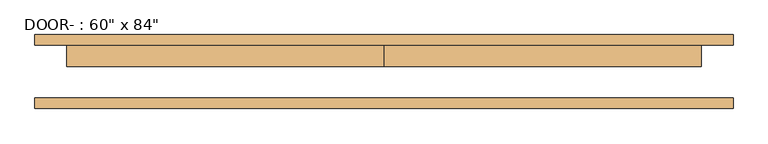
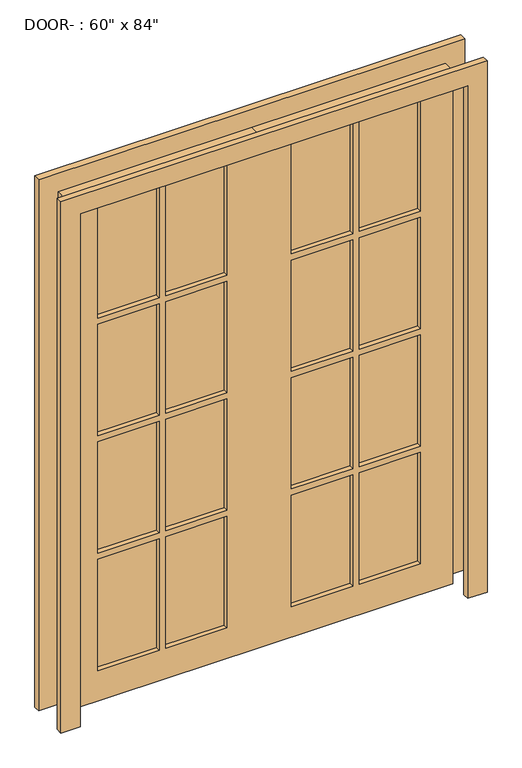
"""IFC4 building model written with IfcOpenShell, lengths in millimetres: door geometry."""

from ifc_helpers import new_model, si_unit, frame, origin, place, context, project, spatial, polyline, outline, extrude, source, transform, mapped, element, save


def door_341c2aa2(model_context):
    return source(origin(), model_context, "Body", "SweptSolid", [
        extrude(outline(polyline([(393.7, 44.45), (635.0, 44.45), (635.0, 31.75), (393.7, 31.75), (393.7, 44.45)])), frame((0.0, 0.0, 1593.85), z_axis=(0.0, 0.0, 1.0), x_axis=(1.0, 0.0, 0.0)), (0.0, 0.0, 1.0), 463.55),
        extrude(outline(polyline([(127.0, 44.45), (368.3, 44.45), (368.3, 31.75), (127.0, 31.75), (127.0, 44.45)])), frame((0.0, 0.0, 1593.85), z_axis=(0.0, 0.0, 1.0), x_axis=(1.0, 0.0, 0.0)), (0.0, 0.0, 1.0), 463.55),
        extrude(outline(polyline([(-368.3, 44.45), (-127.0, 44.45), (-127.0, 31.75), (-368.3, 31.75), (-368.3, 44.45)])), frame((0.0, 0.0, 1593.85), z_axis=(0.0, 0.0, 1.0), x_axis=(1.0, 0.0, 0.0)), (0.0, 0.0, 1.0), 463.55),
        extrude(outline(polyline([(-635.0, 44.45), (-393.7, 44.45), (-393.7, 31.75), (-635.0, 31.75), (-635.0, 44.45)])), frame((0.0, 0.0, 1593.85), z_axis=(0.0, 0.0, 1.0), x_axis=(1.0, 0.0, 0.0)), (0.0, 0.0, 1.0), 463.55),
        extrude(outline(polyline([(-635.0, 44.45), (-393.7, 44.45), (-393.7, 31.75), (-635.0, 31.75), (-635.0, 44.45)])), frame((0.0, 0.0, 1104.9), z_axis=(0.0, 0.0, 1.0), x_axis=(1.0, 0.0, 0.0)), (0.0, 0.0, 1.0), 463.55),
        extrude(outline(polyline([(-368.3, 44.45), (-127.0, 44.45), (-127.0, 31.75), (-368.3, 31.75), (-368.3, 44.45)])), frame((0.0, 0.0, 1104.9), z_axis=(0.0, 0.0, 1.0), x_axis=(1.0, 0.0, 0.0)), (0.0, 0.0, 1.0), 463.55),
        extrude(outline(polyline([(127.0, 44.45), (368.3, 44.45), (368.3, 31.75), (127.0, 31.75), (127.0, 44.45)])), frame((0.0, 0.0, 1104.9), z_axis=(0.0, 0.0, 1.0), x_axis=(1.0, 0.0, 0.0)), (0.0, 0.0, 1.0), 463.55),
        extrude(outline(polyline([(393.7, 44.45), (635.0, 44.45), (635.0, 31.75), (393.7, 31.75), (393.7, 44.45)])), frame((0.0, 0.0, 1104.9), z_axis=(0.0, 0.0, 1.0), x_axis=(1.0, 0.0, 0.0)), (0.0, 0.0, 1.0), 463.55),
        extrude(outline(polyline([(393.7, 44.45), (635.0, 44.45), (635.0, 31.75), (393.7, 31.75), (393.7, 44.45)])), frame((0.0, 0.0, 615.95), z_axis=(0.0, 0.0, 1.0), x_axis=(1.0, 0.0, 0.0)), (0.0, 0.0, 1.0), 463.55),
        extrude(outline(polyline([(127.0, 44.45), (368.3, 44.45), (368.3, 31.75), (127.0, 31.75), (127.0, 44.45)])), frame((0.0, 0.0, 615.95), z_axis=(0.0, 0.0, 1.0), x_axis=(1.0, 0.0, 0.0)), (0.0, 0.0, 1.0), 463.55),
        extrude(outline(polyline([(-368.3, 44.45), (-127.0, 44.45), (-127.0, 31.75), (-368.3, 31.75), (-368.3, 44.45)])), frame((0.0, 0.0, 615.95), z_axis=(0.0, 0.0, 1.0), x_axis=(1.0, 0.0, 0.0)), (0.0, 0.0, 1.0), 463.55),
        extrude(outline(polyline([(-635.0, 44.45), (-393.7, 44.45), (-393.7, 31.75), (-635.0, 31.75), (-635.0, 44.45)])), frame((0.0, 0.0, 615.95), z_axis=(0.0, 0.0, 1.0), x_axis=(1.0, 0.0, 0.0)), (0.0, 0.0, 1.0), 463.55),
        extrude(outline(polyline([(393.7, 44.45), (635.0, 44.45), (635.0, 31.75), (393.7, 31.75), (393.7, 44.45)])), frame((0.0, 0.0, 127.0), z_axis=(0.0, 0.0, 1.0), x_axis=(1.0, 0.0, 0.0)), (0.0, 0.0, 1.0), 463.55),
        extrude(outline(polyline([(127.0, 44.45), (368.3, 44.45), (368.3, 31.75), (127.0, 31.75), (127.0, 44.45)])), frame((0.0, 0.0, 127.0), z_axis=(0.0, 0.0, 1.0), x_axis=(1.0, 0.0, 0.0)), (0.0, 0.0, 1.0), 463.55),
        extrude(outline(polyline([(-368.3, 44.45), (-127.0, 44.45), (-127.0, 31.75), (-368.3, 31.75), (-368.3, 44.45)])), frame((0.0, 0.0, 127.0), z_axis=(0.0, 0.0, 1.0), x_axis=(1.0, 0.0, 0.0)), (0.0, 0.0, 1.0), 463.55),
        extrude(outline(polyline([(-635.0, 44.45), (-393.7, 44.45), (-393.7, 31.75), (-635.0, 31.75), (-635.0, 44.45)])), frame((0.0, 0.0, 127.0), z_axis=(0.0, 0.0, 1.0), x_axis=(1.0, 0.0, 0.0)), (0.0, 0.0, 1.0), 463.55),
        extrude(outline(polyline([(2133.6, 0.0), (2133.6, -762.0), (0.0, -762.0), (0.0, 0.0), (0.0, 762.0), (2133.6, 762.0), (2133.6, 0.0)]), holes=[polyline([(2057.4, 393.7), (2057.4, 635.0), (1593.85, 635.0), (1593.85, 393.7), (2057.4, 393.7)]), polyline([(2057.4, 127.0), (2057.4, 368.3), (1593.85, 368.3), (1593.85, 127.0), (2057.4, 127.0)]), polyline([(1568.45, 393.7), (1568.45, 635.0), (1104.9, 635.0), (1104.9, 393.7), (1568.45, 393.7)]), polyline([(1568.45, 127.0), (1568.45, 368.3), (1104.9, 368.3), (1104.9, 127.0), (1568.45, 127.0)]), polyline([(1079.5, 393.7), (1079.5, 635.0), (615.95, 635.0), (615.95, 393.7), (1079.5, 393.7)]), polyline([(1079.5, 127.0), (1079.5, 368.3), (615.95, 368.3), (615.95, 127.0), (1079.5, 127.0)]), polyline([(590.55, 393.7), (590.55, 635.0), (127.0, 635.0), (127.0, 393.7), (590.55, 393.7)]), polyline([(590.55, 127.0), (590.55, 368.3), (127.0, 368.3), (127.0, 127.0), (590.55, 127.0)]), polyline([(2057.4, -368.3), (2057.4, -127.0), (1593.85, -127.0), (1593.85, -368.3), (2057.4, -368.3)]), polyline([(1568.45, -368.3), (1568.45, -127.0), (1104.9, -127.0), (1104.9, -368.3), (1568.45, -368.3)]), polyline([(1568.45, -393.7), (1104.9, -393.7), (1104.9, -635.0), (1568.45, -635.0), (1568.45, -393.7)]), polyline([(1079.5, -368.3), (1079.5, -127.0), (615.95, -127.0), (615.95, -368.3), (1079.5, -368.3)]), polyline([(1079.5, -393.7), (615.95, -393.7), (615.95, -635.0), (1079.5, -635.0), (1079.5, -393.7)]), polyline([(590.55, -368.3), (590.55, -127.0), (127.0, -127.0), (127.0, -368.3), (590.55, -368.3)]), polyline([(590.55, -635.0), (590.55, -393.7), (127.0, -393.7), (127.0, -635.0), (590.55, -635.0)]), polyline([(1593.85, -393.7), (1593.85, -635.0), (2057.4, -635.0), (2057.4, -393.7), (1593.85, -393.7)])]), frame((0.0, 12.7, 0.0), z_axis=(0.0, 1.0, 0.0), x_axis=(0.0, 0.0, 1.0)), (0.0, 0.0, 1.0), 50.8),
        extrude(outline(polyline([(2133.6, -762.0), (2133.6, 762.0), (0.0, 762.0), (0.0, 838.2), (2209.8, 838.2), (2209.8, -838.2), (0.0, -838.2), (0.0, -762.0), (2133.6, -762.0)])), frame((0.0, -88.9, 0.0), z_axis=(0.0, 1.0, 0.0), x_axis=(0.0, 0.0, 1.0)), (0.0, 0.0, 1.0), 25.4),
        extrude(outline(polyline([(2133.6, -762.0), (2133.6, 762.0), (0.0, 762.0), (0.0, 838.2), (2209.8, 838.2), (2209.8, -838.2), (0.0, -838.2), (0.0, -762.0), (2133.6, -762.0)])), frame((0.0, 63.5, 0.0), z_axis=(0.0, 1.0, 0.0), x_axis=(0.0, 0.0, 1.0)), (0.0, 0.0, 1.0), 25.4),
    ])


if __name__ == "__main__":
    model = new_model("IFC4")
    model_context = context("Model", 3, world=origin())
    ifc_project = project(units=[si_unit("LENGTHUNIT", "METRE", prefix="MILLI")], contexts=[model_context])
    site = spatial("IfcSite", under=ifc_project)
    building = spatial("IfcBuilding", under=site)
    placement = place(None, origin())
    door_shape = door_341c2aa2(model_context)
    element("IfcDoor", 1, ObjectType="DOOR- : 60\" x 84\"", at=placement, inside=building, context=model_context, shape_type="MappedRepresentation", body=[
        mapped(door_shape, transform((0.0, 0.0, 0.0), x_axis=(1.0, 0.0, 0.0), y_axis=(0.0, 1.0, 0.0), z_axis=(0.0, 0.0, 1.0))),
    ])
    save(model, "model.ifc")
